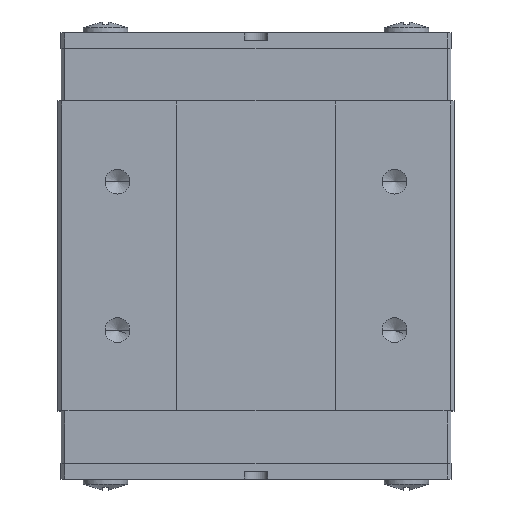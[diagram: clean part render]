
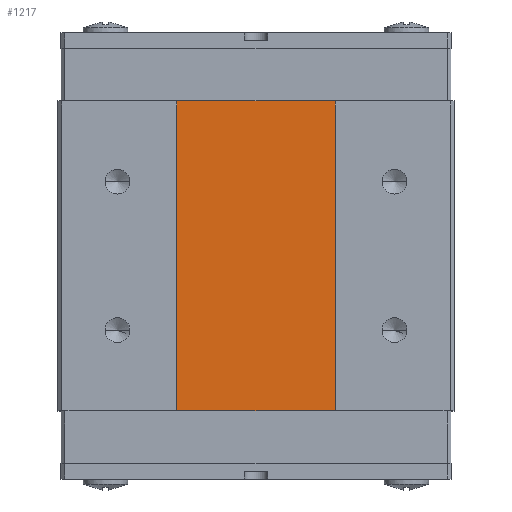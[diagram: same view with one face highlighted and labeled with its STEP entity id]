
A CAD part, top view. The second image highlights one B-rep face of the part: STEP entity #1217.
In plain terms, the highlighted planar face has unit normal (0, 0, 1).
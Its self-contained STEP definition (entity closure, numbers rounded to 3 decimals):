
#1217=ADVANCED_FACE('',(#3364),#3365,.T.);
#1397=VERTEX_POINT('',#3560);
#1863=VERTEX_POINT('',#4078);
#1873=EDGE_CURVE('',#3049,#1863,#4090,.T.);
#2173=EDGE_CURVE('',#1863,#1397,#4424,.T.);
#2201=VERTEX_POINT('',#4453);
#2205=EDGE_CURVE('',#2201,#3049,#4457,.T.);
#3049=VERTEX_POINT('',#5378);
#3087=EDGE_CURVE('',#1397,#2201,#5419,.T.);
#3364=FACE_OUTER_BOUND('',#5801,.T.);
#3365=PLANE('',#5802);
#3560=CARTESIAN_POINT('',(-8.0,6.95,13.75));
#4078=CARTESIAN_POINT('',(8.0,6.95,13.75));
#4090=LINE('',#6910,#6911);
#4424=LINE('',#7416,#7417);
#4453=CARTESIAN_POINT('',(-8.0,38.25,13.75));
#4457=LINE('',#7459,#7460);
#5378=CARTESIAN_POINT('',(8.0,38.25,13.75));
#5419=LINE('',#9078,#9079);
#5801=EDGE_LOOP('',(#9411,#9412,#9413,#9414));
#5802=AXIS2_PLACEMENT_3D('',#9415,#9416,#9417);
#6910=CARTESIAN_POINT('',(8.0,22.6,13.75));
#6911=VECTOR('',#10201,1.0);
#7416=CARTESIAN_POINT('',(0.,6.95,13.75));
#7417=VECTOR('',#10566,1.0);
#7459=CARTESIAN_POINT('',(0.,38.25,13.75));
#7460=VECTOR('',#10584,1.0);
#9078=CARTESIAN_POINT('',(-8.0,22.6,13.75));
#9079=VECTOR('',#11576,1.0);
#9411=ORIENTED_EDGE('',*,*,#1873,.F.);
#9412=ORIENTED_EDGE('',*,*,#2205,.F.);
#9413=ORIENTED_EDGE('',*,*,#3087,.F.);
#9414=ORIENTED_EDGE('',*,*,#2173,.F.);
#9415=CARTESIAN_POINT('',(0.0,22.6,13.75));
#9416=DIRECTION('',(0.0,0.0,1.0));
#9417=DIRECTION('',(1.0,0.0,0.0));
#10201=DIRECTION('',(0.0,-1.0,0.0));
#10566=DIRECTION('',(-1.0,0.0,0.0));
#10584=DIRECTION('',(1.0,0.0,-0.0));
#11576=DIRECTION('',(0.0,1.0,0.0));
